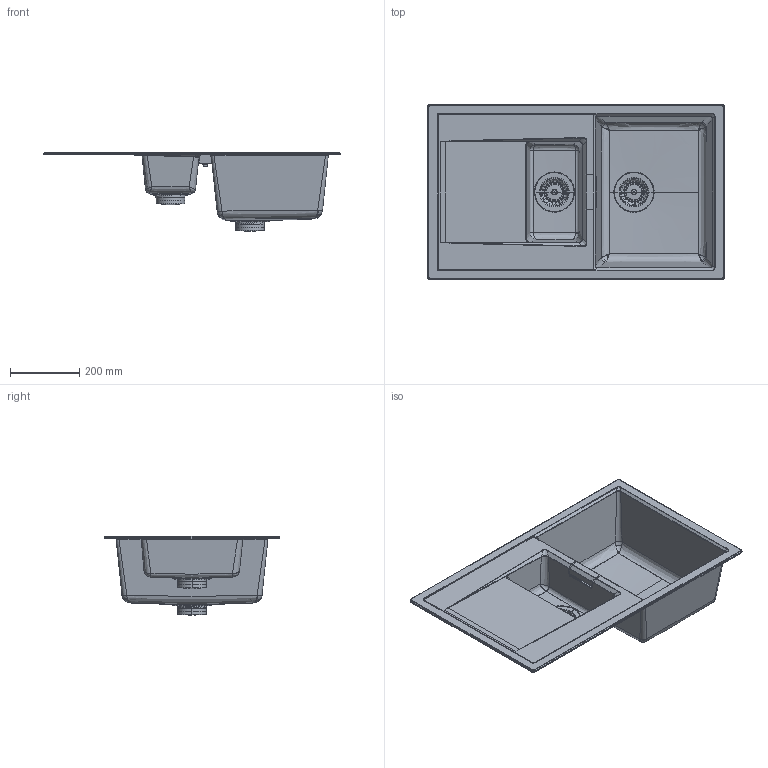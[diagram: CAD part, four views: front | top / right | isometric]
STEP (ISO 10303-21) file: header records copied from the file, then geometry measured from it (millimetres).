
FILE_DESCRIPTION(/* description */ (''),/* implementation_level */ '2;1');
FILE_NAME(/* name */ 'MOND150',/* time_stamp */ '2014-11-04T10:15:53+01:00',/* author */ (''),/* organization */ (''),/* preprocessor_version */ 'ST-DEVELOPER v15',/* originating_system */ '',/* authorisation */ '');
FILE_SCHEMA (('AUTOMOTIVE_DESIGN'));
Length unit declared in the file: millimetre
Products named in the file (1): Document
Bounding box: 860 x 510 x 229.08 mm (x, y, z)
Volume: 69728.8 mm3; surface area: 863754.7 mm2
Topology: 7 solids, 266 shells, 659 faces, 2528 edges, 2035 vertices
Faces by surface type: bspline 588, plane 71
Entity records: 109662 total; most frequent: CARTESIAN_POINT 96221, ORIENTED_EDGE 3766, EDGE_CURVE 2498, VERTEX_POINT 2036, B_SPLINE_CURVE_WITH_KNOTS 1718, EDGE_LOOP 828, ADVANCED_FACE 659, FACE_OUTER_BOUND 659
